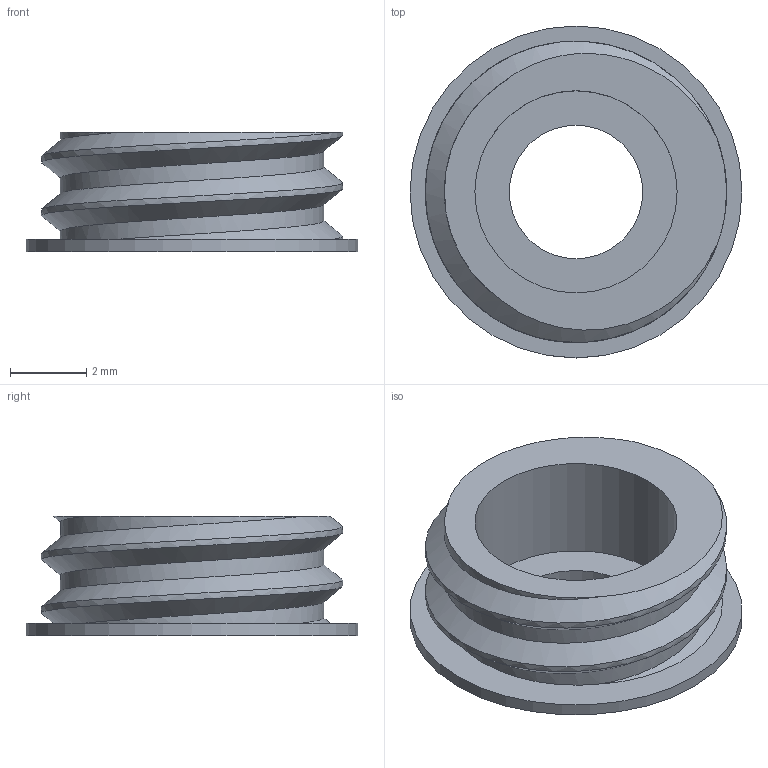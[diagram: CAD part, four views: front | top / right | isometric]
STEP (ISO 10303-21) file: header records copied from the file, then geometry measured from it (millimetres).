
FILE_DESCRIPTION(('Open CASCADE Model'),'2;1');
FILE_NAME('Open CASCADE Shape Model','2026-10-02T16:27:10',('Author'),( 'Open CASCADE'),'Open CASCADE STEP processor 7.9','Open CASCADE 7.9' ,'Unknown');
FILE_SCHEMA(('AUTOMOTIVE_DESIGN { 1 0 10303 214 1 1 1 1 }'));
Length unit declared in the file: millimetre
Products named in the file (1): Open CASCADE STEP translator 7.9 2
Bounding box: 8.7 x 8.7 x 3.12 mm (x, y, z)
Volume: 71.8 mm3; surface area: 245.1 mm2
Topology: 1 solids, 1 shells, 13 faces, 27 edges, 18 vertices
Faces by surface type: cylinder 6, plane 4, bspline 3
Full cylindrical faces by diameter (mm): 3.5 x1, 5.3 x1, 6.9 x1, 8.7 x1
Entity records: 2606 total; most frequent: CARTESIAN_POINT 2102, DIRECTION 69, ORIENTED_EDGE 54, PCURVE 54, DEFINITIONAL_REPRESENTATION 54, B_SPLINE_CURVE_WITH_KNOTS 38, EDGE_CURVE 27, LINE 27
